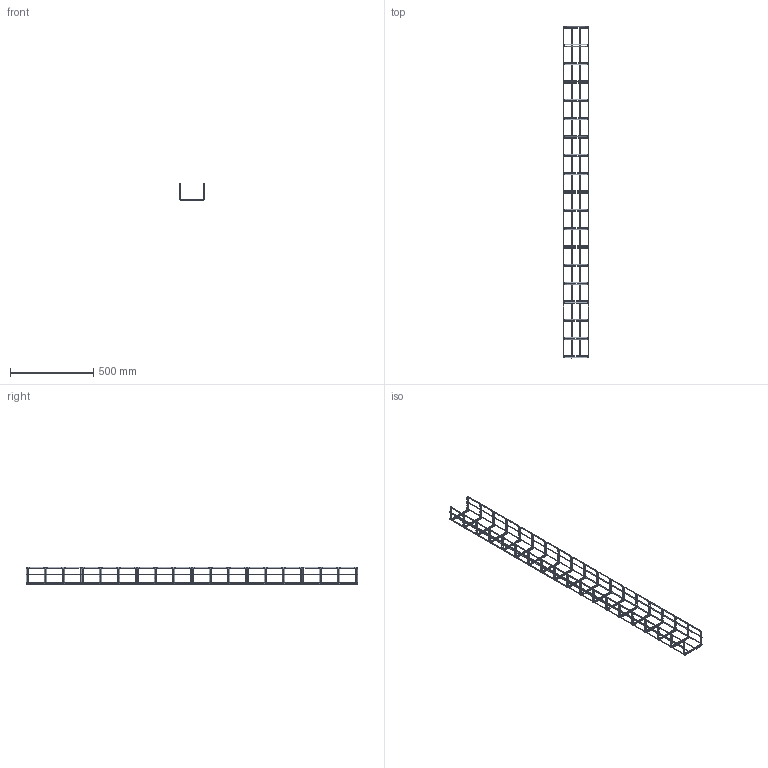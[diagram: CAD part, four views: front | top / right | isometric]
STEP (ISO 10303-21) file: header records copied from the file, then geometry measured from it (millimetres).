
FILE_DESCRIPTION(/* description */ (''),/* implementation_level */ '2;1');
FILE_NAME(/* name */ 'M2_150×100',/* time_stamp */ '2012-11-29T22:05:21+01:00',/* author */ (''),/* organization */ (''),/* preprocessor_version */ 'ST-DEVELOPER v10',/* originating_system */ '',/* authorisation */ '');
FILE_SCHEMA (('AUTOMOTIVE_DESIGN_CC2'));
Length unit declared in the file: millimetre
Products named in the file (1): 1
Bounding box: 154.19 x 1993.51 x 103.94 mm (x, y, z)
Surface area: 343642.2 mm2 (no closed solid volume)
Topology: 0 solids, 324 shells, 632 faces, 1864 edges, 1248 vertices
Faces by surface type: bspline 616, plane 16
Entity records: 52830 total; most frequent: CARTESIAN_POINT 40966, ORIENTED_EDGE 2480, EDGE_CURVE 1864, VERTEX_POINT 1248, B_SPLINE_CURVE_WITH_KNOTS 688, ADVANCED_FACE 632, FACE_OUTER_BOUND 632, EDGE_LOOP 632
